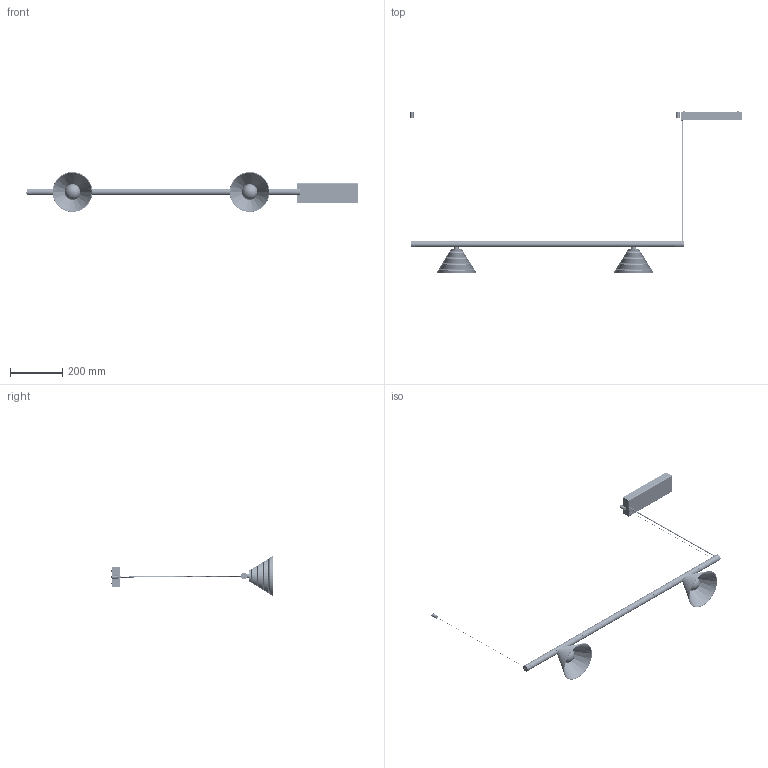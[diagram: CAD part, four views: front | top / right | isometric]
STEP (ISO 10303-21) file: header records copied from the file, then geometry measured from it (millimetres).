
FILE_DESCRIPTION (( 'STEP AP214' ), '1' );
FILE_NAME ('OVAL CONE 10 surf.STEP', '2024-03-15T13:06:50', ( '' ), ( '' ), 'SwSTEP 2.0', 'SolidWorks 2024', '' );
FILE_SCHEMA (( 'AUTOMOTIVE_DESIGN' ));
Length unit declared in the file: millimetre
Products named in the file (41): Jack_Scpre; 04-23DM02-Adaptador_Tapa(V1.2)_24V; Tapa Alimentación Perfil_SCPRE; Imán_12d*5; Difusor Negro Oval_0.56m; Rosca Bola_chapa galbanizada(inglass); Conector Molex Hembra 43020; Tapa Micro V5_V5.1; Cable acero_0.5m; 04-23DM03-Tope_Adaptador_1.3; Prisionero STEAB M4x4_8; Essentra Pasamuro 498025; 04-23DM01-Adaptador_Caja_DM01.3; Cable_VISUAL Alimentación Micro; BOLA CRISTAL OPAL MATE Ø60 CON ROSCA_60; Taco cuerpo Micro; 04-23DM05-CAMPANA CONE(V1.1)_1; Regulador Cable Ø0.6 (Bereta LT1007.0601); DISIPADOR ALUMINIO BALO Bola Ø60_para bola Ø60; Ensamble Tensor Micro_Con Cable; Perfil Micro V4_1m; CUI_DEVICES_PJ-005B_Ø2.5; Tija Tiny_Inyección ; Bola_Ø60xT3; Embellecedor Floron Micro_Micro Colgante; Driver Entity EN1689; CJ03-ENS-CAMPANA CONE(V1.1); Kgp 100w-24V; Tapa Unión-Final V5_V5.1 Colgante Union ; CJ01-ENS_Adaptador 24V_Proyector; Tuerca Hembra Conector Jack; Taco Micro_Ø10 M10*5; Difusor Negro Oval_0.1m; Ensamble Tapa + Tope_Con Conector; Tapon Tapa_2; Ensamble Floron Superficie_Colgante; Remache 3 Cabeza CONICA_remachado; OVAL CONE 10 surf; Chapa Floron Micro_Techo; CJ02-BALO 60_Surface Ø60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
Assembly tree (48 placements, depth 5):
  OVAL CONE 10 surf
    Perfil Micro V4_1m
    CJ03-ENS-CAMPANA CONE(V1.1)  x2
      04-23DM05-CAMPANA CONE(V1.1)_1
      CJ02-BALO 60_Surface Ø60
        DISIPADOR ALUMINIO BALO Bola Ø60_para bola Ø60
        BOLA CRISTAL OPAL MATE Ø60 CON ROSCA_60
          Bola_Ø60xT3
          Rosca Bola_chapa galbanizada(inglass)
      CJ01-ENS_Adaptador 24V_Proyector
        04-23DM01-Adaptador_Caja_DM01.3
        04-23DM02-Adaptador_Tapa(V1.2)_24V
        Conector Molex Hembra 43020
        Driver Entity EN1689
        04-23DM03-Tope_Adaptador_1.3  x2
        Tija Tiny_Inyección 
    Difusor Negro Oval_0.1m  x2
    Difusor Negro Oval_0.56m
    Ensamble Tapa + Tope_Con Conector  x2
      Tapa Micro V5_V5.1
      CUI_DEVICES_PJ-005B_Ø2.5
      Tuerca Hembra Conector Jack
    Ensamble Tensor Micro_Con Cable  x2
      Taco Micro_Ø10 M10*5
      Taco cuerpo Micro
      Regulador Cable Ø0.6 (Bereta LT1007.0601)
      Cable acero_0.5m
    Tapa Unión-Final V5_V5.1 Colgante Union   x2
    Ensamble Floron Superficie_Colgante
      Kgp 100w-24V
      Embellecedor Floron Micro_Micro Colgante
      Chapa Floron Micro_Techo
      Remache 3 Cabeza CONICA_remachado  x2
      Imán_12d*5  x2
      Essentra Pasamuro 498025
    Ensamble Conector Jack Unión_Alimentación Colgante SCPRE
      Cable_VISUAL Alimentación Micro
      Jack_Scpre
      Tapa Alimentación Perfil_SCPRE
      Prisionero STEAB M4x4_8
    Tapon Tapa_2
Bounding box: 1274.44 x 619.27 x 153.01 mm (x, y, z)
Volume: 549568.9 mm3; surface area: 693429.8 mm2
Topology: 62 solids, 64 shells, 6136 faces, 15720 edges, 9836 vertices
Faces by surface type: plane 2515, cylinder 1803, cone 998, bspline 425, torus 287, sphere 108
Entity records: 162520 total; most frequent: CARTESIAN_POINT 66836, ORIENTED_EDGE 20642, DIRECTION 18707, EDGE_CURVE 10321, VERTEX_POINT 6574, VECTOR 6515, LINE 6515, AXIS2_PLACEMENT_3D 6096
